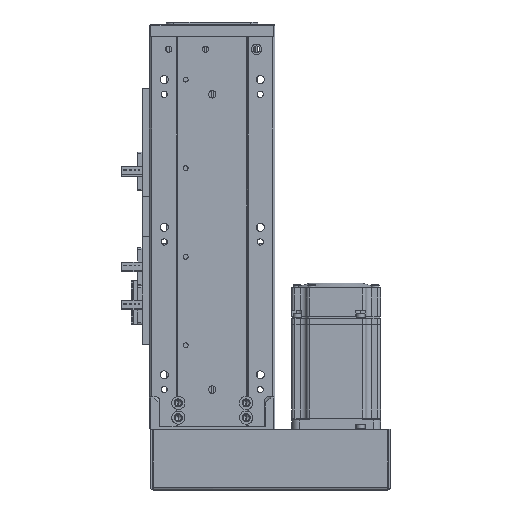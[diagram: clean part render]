
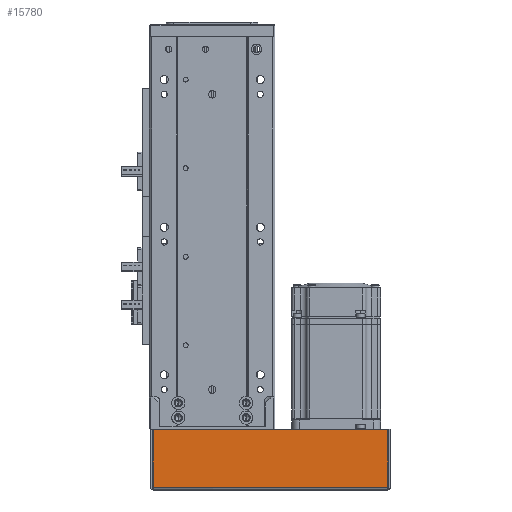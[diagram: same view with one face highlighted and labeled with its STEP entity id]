
A CAD part, front view. The second image highlights one B-rep face of the part: STEP entity #15780.
In plain terms, the highlighted planar face has unit normal (0, -1, 0).
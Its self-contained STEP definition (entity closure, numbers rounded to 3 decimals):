
#25 = DIRECTION ( 'NONE',  ( 0., 0., 1. ) ) ;
#33 = CARTESIAN_POINT ( 'NONE',  ( -79.393, -30., 0. ) ) ;
#39 = CARTESIAN_POINT ( 'NONE',  ( -81.1, -30., 40. ) ) ;
#40 = DIRECTION ( 'NONE',  ( 0., 0., 1. ) ) ;
#49 = CARTESIAN_POINT ( 'NONE',  ( 79.393, -30., 0. ) ) ;
#52 = DIRECTION ( 'NONE',  ( 1., 0., 0. ) ) ;
#88 = DIRECTION ( 'NONE',  ( -1., 0., 0. ) ) ;
#92 = CARTESIAN_POINT ( 'NONE',  ( -81.1, -30., 0.737 ) ) ;
#1288 = VECTOR ( 'NONE', #40, 1000. ) ;
#1303 = VECTOR ( 'NONE', #88, 1000. ) ;
#1312 = VECTOR ( 'NONE', #25, 1000. ) ;
#1320 = VECTOR ( 'NONE', #52, 1000. ) ;
#1324 = LINE ( 'NONE', #33, #1312 ) ;
#1333 = LINE ( 'NONE', #92, #1303 ) ;
#1335 = LINE ( 'NONE', #49, #1288 ) ;
#1351 = LINE ( 'NONE', #39, #1320 ) ;
#7044 = EDGE_CURVE ( 'NONE', #61599, #61669, #1324, .T. ) ;
#7052 = EDGE_CURVE ( 'NONE', #61669, #61574, #1351, .T. ) ;
#7069 = EDGE_CURVE ( 'NONE', #61639, #61574, #1335, .T. ) ;
#7075 = EDGE_CURVE ( 'NONE', #61639, #61599, #1333, .T. ) ;
#8536 = AXIS2_PLACEMENT_3D ( 'NONE', #53403, #53396, #53379 ) ;
#15780 = ADVANCED_FACE ( 'NONE', ( #51401 ), #53395, .F. ) ;
#21374 = EDGE_LOOP ( 'NONE', ( #36375, #36377, #36358, #36416 ) ) ;
#36358 = ORIENTED_EDGE ( 'NONE', *, *, #7052, .F. ) ;
#36375 = ORIENTED_EDGE ( 'NONE', *, *, #7075, .F. ) ;
#36377 = ORIENTED_EDGE ( 'NONE', *, *, #7069, .T. ) ;
#36416 = ORIENTED_EDGE ( 'NONE', *, *, #7044, .F. ) ;
#45902 = CARTESIAN_POINT ( 'NONE',  ( 79.393, -30., 40. ) ) ;
#46001 = CARTESIAN_POINT ( 'NONE',  ( 79.393, -30., 0.737 ) ) ;
#46003 = CARTESIAN_POINT ( 'NONE',  ( -79.393, -30., 0.737 ) ) ;
#46019 = CARTESIAN_POINT ( 'NONE',  ( -79.393, -30., 40. ) ) ;
#51401 = FACE_OUTER_BOUND ( 'NONE', #21374, .T. ) ;
#53379 = DIRECTION ( 'NONE',  ( 0., 0., 1. ) ) ;
#53395 = PLANE ( 'NONE',  #8536 ) ;
#53396 = DIRECTION ( 'NONE',  ( 0., 1., 0. ) ) ;
#53403 = CARTESIAN_POINT ( 'NONE',  ( 0., -30., 0. ) ) ;
#61574 = VERTEX_POINT ( 'NONE', #45902 ) ;
#61599 = VERTEX_POINT ( 'NONE', #46003 ) ;
#61639 = VERTEX_POINT ( 'NONE', #46001 ) ;
#61669 = VERTEX_POINT ( 'NONE', #46019 ) ;
